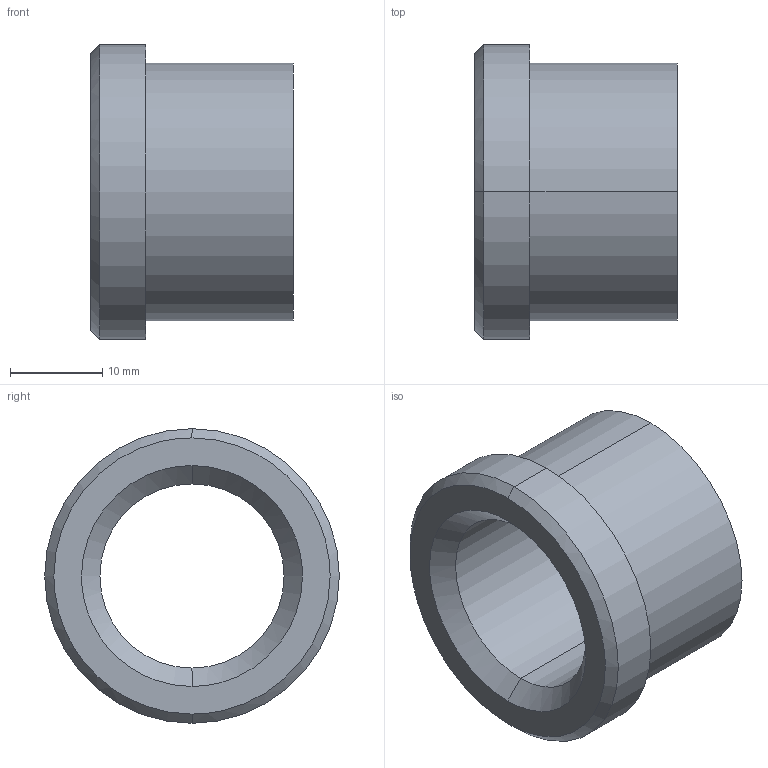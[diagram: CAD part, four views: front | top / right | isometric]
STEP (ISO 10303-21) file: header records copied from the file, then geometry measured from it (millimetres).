
FILE_DESCRIPTION(('CATIA V5 STEP Exchange'),'2;1');
FILE_NAME('C:\Users\Utente\Desktop\IO LAVORO\3D X SITO CF\X SITO\PLASTICA\353\353-20X22.stp','2021-05-11T14:53:03+00:00',('none'),('none'),'CATIA Version 5 Release 20 GA (IN-10)','CATIA V5 STEP AP203','none');
FILE_SCHEMA(('CONFIG_CONTROL_DESIGN'));
Length unit declared in the file: millimetre
Products named in the file (1): 353-20X22
Bounding box: 22 x 32 x 32 mm (x, y, z)
Volume: 7551.4 mm3; surface area: 4205 mm2
Topology: 1 solids, 1 shells, 15 faces, 48 edges, 36 vertices
Faces by surface type: cylinder 6, cone 4, plane 3, torus 2
Entity records: 680 total; most frequent: CARTESIAN_POINT 212, ORIENTED_EDGE 96, DIRECTION 70, EDGE_CURVE 48, AXIS2_PLACEMENT_3D 46, VERTEX_POINT 36, CIRCLE 30, EDGE_LOOP 18
